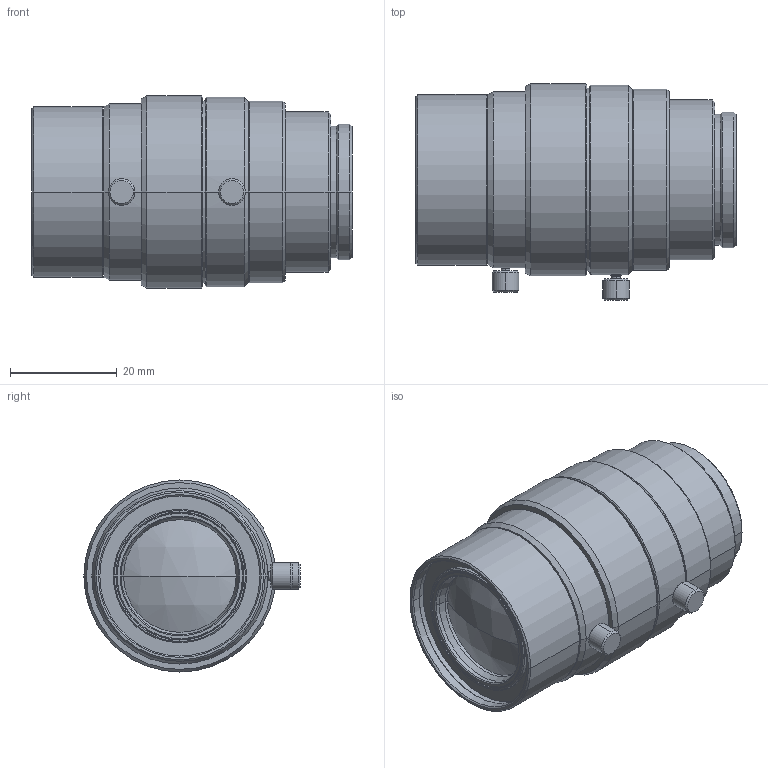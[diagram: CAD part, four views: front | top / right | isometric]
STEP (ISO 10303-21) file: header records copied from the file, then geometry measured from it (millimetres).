
FILE_DESCRIPTION (( 'STEP AP214' ), '1' );
FILE_NAME ('VS-1618H_3CMOS.STEP', '2019-11-20T02:47:59', ( '' ), ( '' ), 'SwSTEP 2.0', 'SolidWorks 2018', '' );
FILE_SCHEMA (( 'AUTOMOTIVE_DESIGN' ));
Length unit declared in the file: millimetre
Products named in the file (1): VS-1618H_3CMOS
Bounding box: 60 x 40.55 x 36 mm (x, y, z)
Volume: 48436 mm3; surface area: 9219.8 mm2
Topology: 1 solids, 1 shells, 126 faces, 256 edges, 149 vertices
Faces by surface type: cone 62, cylinder 42, plane 20, sphere 2
Entity records: 3366 total; most frequent: DIRECTION 644, CARTESIAN_POINT 598, ORIENTED_EDGE 512, AXIS2_PLACEMENT_3D 269, EDGE_CURVE 256, VERTEX_POINT 149, EDGE_LOOP 143, CIRCLE 142
